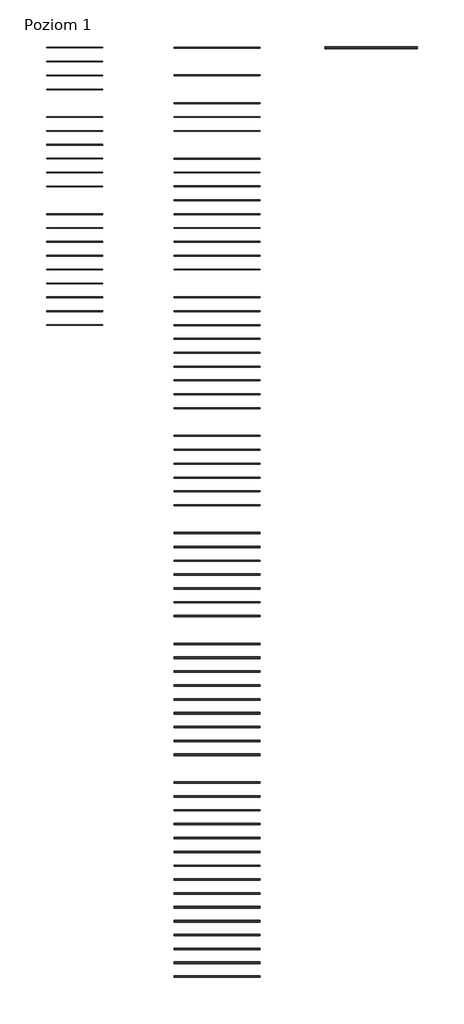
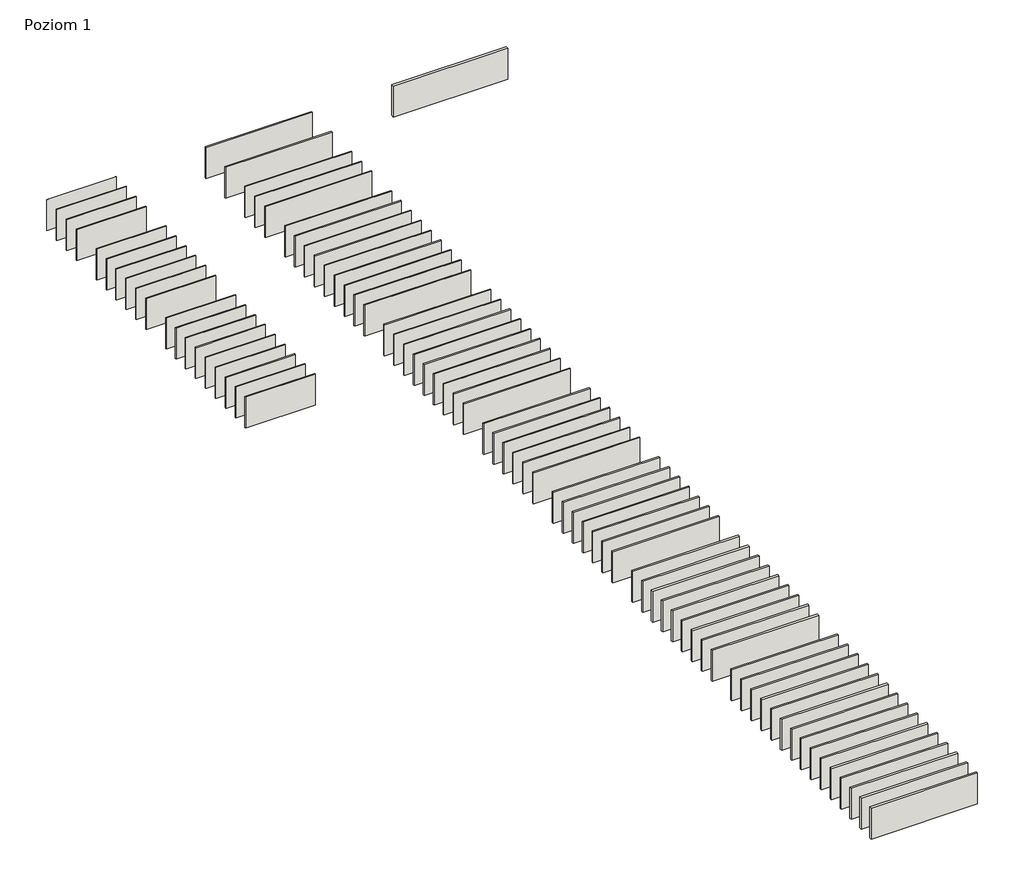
# One storey: 80 walls.
"""IFC4 building model written with IfcOpenShell, lengths in millimetres."""

from ifc_helpers import new_model, si_unit, origin, origin_with_axes, place, context, project, spatial, polyline, outline, extrude, element, save

model = new_model("IFC4")

# Units and contexts
model_context = context("Model", 3, world=origin())
ifc_project = project(units=[si_unit("LENGTHUNIT", "METRE", prefix="MILLI")], contexts=[model_context])

# Site, building, storey
site = spatial("IfcSite", under=ifc_project)
building = spatial("IfcBuilding", under=site)
storey = spatial("IfcBuildingStorey", under=building, Name="Poziom 1", Elevation=0.0)

# Walls
placement = place(None, origin())
element("IfcWall", 1, ObjectType="3.41.01-63-EI30/REI30", at=placement, inside=storey, context=model_context, shape_type="SweptSolid", body=[
    extrude(outline(polyline([(-838.6928531, -63644.5048206), (-13838.6928531, -63644.5048206), (-13838.6928531, -63489.5048206), (-838.6928531, -63489.5048206), (-838.6928531, -63644.5048206)])), origin_with_axes(), (0.0, 0.0, 1.0), 4000.0),
])
element("IfcWall", 2, ObjectType="3.41.01-63-EI60/REI60", at=placement, inside=storey, context=model_context, shape_type="SweptSolid", body=[
    extrude(outline(polyline([(-838.6928531, -65744.5048206), (-13838.6928531, -65744.5048206), (-13838.6928531, -65589.5048206), (-838.6928531, -65589.5048206), (-838.6928531, -65744.5048206)])), origin_with_axes(), (0.0, 0.0, 1.0), 4000.0),
])
element("IfcWall", 3, ObjectType="3.41.01-63-EI120/REI120", at=placement, inside=storey, context=model_context, shape_type="SweptSolid", body=[
    extrude(outline(polyline([(-838.6928531, -67844.5048206), (-13838.6928531, -67844.5048206), (-13838.6928531, -67689.5048206), (-838.6928531, -67689.5048206), (-838.6928531, -67844.5048206)])), origin_with_axes(), (0.0, 0.0, 1.0), 4000.0),
])
element("IfcWall", 4, ObjectType="3.41.02-63-EI30/REI30", at=placement, inside=storey, context=model_context, shape_type="SweptSolid", body=[
    extrude(outline(polyline([(-838.6928531, -72069.5048206), (-13838.6928531, -72069.5048206), (-13838.6928531, -71864.5048206), (-838.6928531, -71864.5048206), (-838.6928531, -72069.5048206)])), origin_with_axes(), (0.0, 0.0, 1.0), 4000.0),
])
element("IfcWall", 5, ObjectType="3.41.02-63-EI60/REI60", at=placement, inside=storey, context=model_context, shape_type="SweptSolid", body=[
    extrude(outline(polyline([(-838.6928531, -74169.5048206), (-13838.6928531, -74169.5048206), (-13838.6928531, -73964.5048206), (-838.6928531, -73964.5048206), (-838.6928531, -74169.5048206)])), origin_with_axes(), (0.0, 0.0, 1.0), 4000.0),
])
element("IfcWall", 6, ObjectType="3.41.02-63-EI120/REI120", at=placement, inside=storey, context=model_context, shape_type="SweptSolid", body=[
    extrude(outline(polyline([(-838.6928531, -76269.5048206), (-13838.6928531, -76269.5048206), (-13838.6928531, -76064.5048206), (-838.6928531, -76064.5048206), (-838.6928531, -76269.5048206)])), origin_with_axes(), (0.0, 0.0, 1.0), 4000.0),
])
element("IfcWall", 7, ObjectType="3.41.02-64-EI30/REI30", at=placement, inside=storey, context=model_context, shape_type="SweptSolid", body=[
    extrude(outline(polyline([(-838.6928531, -78369.5048206), (-13838.6928531, -78369.5048206), (-13838.6928531, -78164.5048206), (-838.6928531, -78164.5048206), (-838.6928531, -78369.5048206)])), origin_with_axes(), (0.0, 0.0, 1.0), 4000.0),
])
element("IfcWall", 8, ObjectType="3.41.02-64-EI60/REI60", at=placement, inside=storey, context=model_context, shape_type="SweptSolid", body=[
    extrude(outline(polyline([(-838.6928531, -80469.5048206), (-13838.6928531, -80469.5048206), (-13838.6928531, -80264.5048206), (-838.6928531, -80264.5048206), (-838.6928531, -80469.5048206)])), origin_with_axes(), (0.0, 0.0, 1.0), 4000.0),
])
element("IfcWall", 9, ObjectType="3.41.02-64-EI120/REI120", at=placement, inside=storey, context=model_context, shape_type="SweptSolid", body=[
    extrude(outline(polyline([(-838.6928531, -82569.5048206), (-13838.6928531, -82569.5048206), (-13838.6928531, -82364.5048206), (-838.6928531, -82364.5048206), (-838.6928531, -82569.5048206)])), origin_with_axes(), (0.0, 0.0, 1.0), 4000.0),
])
element("IfcWall", 10, ObjectType="3.41.03-64-EI30/REI30", at=placement, inside=storey, context=model_context, shape_type="SweptSolid", body=[
    extrude(outline(polyline([(-838.6928531, -95194.5048206), (-13838.6928531, -95194.5048206), (-13838.6928531, -94939.5048206), (-838.6928531, -94939.5048206), (-838.6928531, -95194.5048206)])), origin_with_axes(), (0.0, 0.0, 1.0), 4000.0),
])
element("IfcWall", 11, ObjectType="3.41.03-64-EI60/REI60", at=placement, inside=storey, context=model_context, shape_type="SweptSolid", body=[
    extrude(outline(polyline([(-838.6928531, -97294.5048206), (-13838.6928531, -97294.5048206), (-13838.6928531, -97039.5048206), (-838.6928531, -97039.5048206), (-838.6928531, -97294.5048206)])), origin_with_axes(), (0.0, 0.0, 1.0), 4000.0),
])
element("IfcWall", 12, ObjectType="3.41.03-64-EI120/REI120", at=placement, inside=storey, context=model_context, shape_type="SweptSolid", body=[
    extrude(outline(polyline([(-838.6928531, -99394.5048206), (-13838.6928531, -99394.5048206), (-13838.6928531, -99139.5048206), (-838.6928531, -99139.5048206), (-838.6928531, -99394.5048206)])), origin_with_axes(), (0.0, 0.0, 1.0), 4000.0),
])
element("IfcWall", 13, ObjectType="3.41.03-65-EI30/REI30", at=placement, inside=storey, context=model_context, shape_type="SweptSolid", body=[
    extrude(outline(polyline([(-838.6928531, -101494.5048206), (-13838.6928531, -101494.5048206), (-13838.6928531, -101239.5048206), (-838.6928531, -101239.5048206), (-838.6928531, -101494.5048206)])), origin_with_axes(), (0.0, 0.0, 1.0), 4000.0),
])
element("IfcWall", 14, ObjectType="3.41.03-65-EI60/REI60", at=placement, inside=storey, context=model_context, shape_type="SweptSolid", body=[
    extrude(outline(polyline([(-838.6928531, -103594.5048206), (-13838.6928531, -103594.5048206), (-13838.6928531, -103339.5048206), (-838.6928531, -103339.5048206), (-838.6928531, -103594.5048206)])), origin_with_axes(), (0.0, 0.0, 1.0), 4000.0),
])
element("IfcWall", 15, ObjectType="3.41.03-65-EI120/REI120", at=placement, inside=storey, context=model_context, shape_type="SweptSolid", body=[
    extrude(outline(polyline([(-838.6928531, -105694.5048206), (-13838.6928531, -105694.5048206), (-13838.6928531, -105439.5048206), (-838.6928531, -105439.5048206), (-838.6928531, -105694.5048206)])), origin_with_axes(), (0.0, 0.0, 1.0), 4000.0),
])
element("IfcWall", 16, ObjectType="3.41.052-64-EI30/REI30", at=placement, inside=storey, context=model_context, shape_type="SweptSolid", body=[
    extrude(outline(polyline([(-838.6928531, -122469.5048206), (-13838.6928531, -122469.5048206), (-13838.6928531, -122264.5048206), (-838.6928531, -122264.5048206), (-838.6928531, -122469.5048206)])), origin_with_axes(), (0.0, 0.0, 1.0), 4000.0),
])
element("IfcWall", 17, ObjectType="3.41.052-64-EI60/REI60", at=placement, inside=storey, context=model_context, shape_type="SweptSolid", body=[
    extrude(outline(polyline([(-838.6928531, -124569.5048206), (-13838.6928531, -124569.5048206), (-13838.6928531, -124364.5048206), (-838.6928531, -124364.5048206), (-838.6928531, -124569.5048206)])), origin_with_axes(), (0.0, 0.0, 1.0), 4000.0),
])
element("IfcWall", 18, ObjectType="3.41.052-64-EI120/REI120", at=placement, inside=storey, context=model_context, shape_type="SweptSolid", body=[
    extrude(outline(polyline([(-838.6928531, -126669.5048206), (-13838.6928531, -126669.5048206), (-13838.6928531, -126464.5048206), (-838.6928531, -126464.5048206), (-838.6928531, -126669.5048206)])), origin_with_axes(), (0.0, 0.0, 1.0), 4000.0),
])
element("IfcWall", 19, ObjectType="3.41.053-67-EI30/REI30", at=placement, inside=storey, context=model_context, shape_type="SweptSolid", body=[
    extrude(outline(polyline([(-838.6928531, -128794.5048206), (-13838.6928531, -128794.5048206), (-13838.6928531, -128539.5048206), (-838.6928531, -128539.5048206), (-838.6928531, -128794.5048206)])), origin_with_axes(), (0.0, 0.0, 1.0), 4000.0),
])
element("IfcWall", 20, ObjectType="3.41.053-67-EI60/REI60", at=placement, inside=storey, context=model_context, shape_type="SweptSolid", body=[
    extrude(outline(polyline([(-838.6928531, -130894.5048206), (-13838.6928531, -130894.5048206), (-13838.6928531, -130639.5048206), (-838.6928531, -130639.5048206), (-838.6928531, -130894.5048206)])), origin_with_axes(), (0.0, 0.0, 1.0), 4000.0),
])
element("IfcWall", 21, ObjectType="3.41.053-67-EI120/REI120", at=placement, inside=storey, context=model_context, shape_type="SweptSolid", body=[
    extrude(outline(polyline([(-838.6928531, -132994.5048206), (-13838.6928531, -132994.5048206), (-13838.6928531, -132739.5048206), (-838.6928531, -132739.5048206), (-838.6928531, -132994.5048206)])), origin_with_axes(), (0.0, 0.0, 1.0), 4000.0),
])
element("IfcWall", 22, ObjectType="3.40.04-55-EI30/REI30", at=placement, inside=storey, context=model_context, shape_type="SweptSolid", body=[
    extrude(outline(polyline([(-838.6928531, -6917.0048206), (-13838.6928531, -6917.0048206), (-13838.6928531, -6817.0048206), (-838.6928531, -6817.0048206), (-838.6928531, -6917.0048206)])), origin_with_axes(), (0.0, 0.0, 1.0), 4000.0),
])
element("IfcWall", 23, ObjectType="3.40.04-55-EI60/REI60", at=placement, inside=storey, context=model_context, shape_type="SweptSolid", body=[
    extrude(outline(polyline([(-838.6928531, -9017.0048206), (-13838.6928531, -9017.0048206), (-13838.6928531, -8917.0048206), (-838.6928531, -8917.0048206), (-838.6928531, -9017.0048206)])), origin_with_axes(), (0.0, 0.0, 1.0), 4000.0),
])
element("IfcWall", 24, ObjectType="3.40.04-55-EI120/REI120", at=placement, inside=storey, context=model_context, shape_type="SweptSolid", body=[
    extrude(outline(polyline([(-838.6928531, -11117.0048206), (-13838.6928531, -11117.0048206), (-13838.6928531, -11017.0048206), (-838.6928531, -11017.0048206), (-838.6928531, -11117.0048206)])), origin_with_axes(), (0.0, 0.0, 1.0), 4000.0),
])
element("IfcWall", 25, ObjectType="3.40.05 AKU-61-EI30/REI30", at=placement, inside=storey, context=model_context, shape_type="SweptSolid", body=[
    extrude(outline(polyline([(-838.6928531, -15329.5048206), (-13838.6928531, -15329.5048206), (-13838.6928531, -15204.5048206), (-838.6928531, -15204.5048206), (-838.6928531, -15329.5048206)])), origin_with_axes(), (0.0, 0.0, 1.0), 4000.0),
])
element("IfcWall", 26, ObjectType="3.40.05 AKU-61-EI60/REI60", at=placement, inside=storey, context=model_context, shape_type="SweptSolid", body=[
    extrude(outline(polyline([(-838.6928531, -17429.5048206), (-13838.6928531, -17429.5048206), (-13838.6928531, -17304.5048206), (-838.6928531, -17304.5048206), (-838.6928531, -17429.5048206)])), origin_with_axes(), (0.0, 0.0, 1.0), 4000.0),
])
element("IfcWall", 27, ObjectType="3.40.05 AKU-61-EI120/REI120", at=placement, inside=storey, context=model_context, shape_type="SweptSolid", body=[
    extrude(outline(polyline([(-838.6928531, -19529.5048206), (-13838.6928531, -19529.5048206), (-13838.6928531, -19404.5048206), (-838.6928531, -19404.5048206), (-838.6928531, -19529.5048206)])), origin_with_axes(), (0.0, 0.0, 1.0), 4000.0),
])
element("IfcWall", 28, ObjectType="3.40.05-54-EI30/REI30", at=placement, inside=storey, context=model_context, shape_type="SweptSolid", body=[
    extrude(outline(polyline([(-838.6928531, -21629.5048206), (-13838.6928531, -21629.5048206), (-13838.6928531, -21504.5048206), (-838.6928531, -21504.5048206), (-838.6928531, -21629.5048206)])), origin_with_axes(), (0.0, 0.0, 1.0), 4000.0),
])
element("IfcWall", 29, ObjectType="3.40.05-54-EI60/REI60", at=placement, inside=storey, context=model_context, shape_type="SweptSolid", body=[
    extrude(outline(polyline([(-838.6928531, -23729.5048206), (-13838.6928531, -23729.5048206), (-13838.6928531, -23604.5048206), (-838.6928531, -23604.5048206), (-838.6928531, -23729.5048206)])), origin_with_axes(), (0.0, 0.0, 1.0), 4000.0),
])
element("IfcWall", 30, ObjectType="3.40.05-54-EI120/REI120", at=placement, inside=storey, context=model_context, shape_type="SweptSolid", body=[
    extrude(outline(polyline([(-838.6928531, -25829.5048206), (-13838.6928531, -25829.5048206), (-13838.6928531, -25704.5048206), (-838.6928531, -25704.5048206), (-838.6928531, -25829.5048206)])), origin_with_axes(), (0.0, 0.0, 1.0), 4000.0),
])
element("IfcWall", 31, ObjectType="3.40.05-58-EI30/REI30", at=placement, inside=storey, context=model_context, shape_type="SweptSolid", body=[
    extrude(outline(polyline([(-838.6928531, -27929.5048206), (-13838.6928531, -27929.5048206), (-13838.6928531, -27804.5048206), (-838.6928531, -27804.5048206), (-838.6928531, -27929.5048206)])), origin_with_axes(), (0.0, 0.0, 1.0), 4000.0),
])
element("IfcWall", 32, ObjectType="3.40.05-58-EI60/REI60", at=placement, inside=storey, context=model_context, shape_type="SweptSolid", body=[
    extrude(outline(polyline([(-838.6928531, -30029.5048206), (-13838.6928531, -30029.5048206), (-13838.6928531, -29904.5048206), (-838.6928531, -29904.5048206), (-838.6928531, -30029.5048206)])), origin_with_axes(), (0.0, 0.0, 1.0), 4000.0),
])
element("IfcWall", 33, ObjectType="3.40.05-58-EI120/REI120", at=placement, inside=storey, context=model_context, shape_type="SweptSolid", body=[
    extrude(outline(polyline([(-838.6928531, -32129.5048206), (-13838.6928531, -32129.5048206), (-13838.6928531, -32004.5048206), (-838.6928531, -32004.5048206), (-838.6928531, -32129.5048206)])), origin_with_axes(), (0.0, 0.0, 1.0), 4000.0),
])
element("IfcWall", 34, ObjectType="3.40.06 AKU-64-EI30/REI30", at=placement, inside=storey, context=model_context, shape_type="SweptSolid", body=[
    extrude(outline(polyline([(-838.6928531, -36342.0048206), (-13838.6928531, -36342.0048206), (-13838.6928531, -36192.0048206), (-838.6928531, -36192.0048206), (-838.6928531, -36342.0048206)])), origin_with_axes(), (0.0, 0.0, 1.0), 4000.0),
])
element("IfcWall", 35, ObjectType="3.40.06 AKU-64-EI60/REI60", at=placement, inside=storey, context=model_context, shape_type="SweptSolid", body=[
    extrude(outline(polyline([(-838.6928531, -38442.0048206), (-13838.6928531, -38442.0048206), (-13838.6928531, -38292.0048206), (-838.6928531, -38292.0048206), (-838.6928531, -38442.0048206)])), origin_with_axes(), (0.0, 0.0, 1.0), 4000.0),
])
element("IfcWall", 36, ObjectType="3.40.06 AKU-64-EI120/REI120", at=placement, inside=storey, context=model_context, shape_type="SweptSolid", body=[
    extrude(outline(polyline([(-838.6928531, -40542.0048206), (-13838.6928531, -40542.0048206), (-13838.6928531, -40392.0048206), (-838.6928531, -40392.0048206), (-838.6928531, -40542.0048206)])), origin_with_axes(), (0.0, 0.0, 1.0), 4000.0),
])
element("IfcWall", 37, ObjectType="3.40.06-54-EI30/REI30", at=placement, inside=storey, context=model_context, shape_type="SweptSolid", body=[
    extrude(outline(polyline([(-838.6928531, -42642.0048206), (-13838.6928531, -42642.0048206), (-13838.6928531, -42492.0048206), (-838.6928531, -42492.0048206), (-838.6928531, -42642.0048206)])), origin_with_axes(), (0.0, 0.0, 1.0), 4000.0),
])
element("IfcWall", 38, ObjectType="3.40.06-54-EI60/REI60", at=placement, inside=storey, context=model_context, shape_type="SweptSolid", body=[
    extrude(outline(polyline([(-838.6928531, -44742.0048206), (-13838.6928531, -44742.0048206), (-13838.6928531, -44592.0048206), (-838.6928531, -44592.0048206), (-838.6928531, -44742.0048206)])), origin_with_axes(), (0.0, 0.0, 1.0), 4000.0),
])
element("IfcWall", 39, ObjectType="3.40.06-54-EI120/REI120", at=placement, inside=storey, context=model_context, shape_type="SweptSolid", body=[
    extrude(outline(polyline([(-838.6928531, -46842.0048206), (-13838.6928531, -46842.0048206), (-13838.6928531, -46692.0048206), (-838.6928531, -46692.0048206), (-838.6928531, -46842.0048206)])), origin_with_axes(), (0.0, 0.0, 1.0), 4000.0),
])
element("IfcWall", 40, ObjectType="3.40.06-57-EI30/REI30", at=placement, inside=storey, context=model_context, shape_type="SweptSolid", body=[
    extrude(outline(polyline([(-838.6928531, -48942.0048206), (-13838.6928531, -48942.0048206), (-13838.6928531, -48792.0048206), (-838.6928531, -48792.0048206), (-838.6928531, -48942.0048206)])), origin_with_axes(), (0.0, 0.0, 1.0), 4000.0),
])
element("IfcWall", 41, ObjectType="3.40.06-57-EI60/REI60", at=placement, inside=storey, context=model_context, shape_type="SweptSolid", body=[
    extrude(outline(polyline([(-838.6928531, -51042.0048206), (-13838.6928531, -51042.0048206), (-13838.6928531, -50892.0048206), (-838.6928531, -50892.0048206), (-838.6928531, -51042.0048206)])), origin_with_axes(), (0.0, 0.0, 1.0), 4000.0),
])
element("IfcWall", 42, ObjectType="3.40.06-57-EI120/REI120", at=placement, inside=storey, context=model_context, shape_type="SweptSolid", body=[
    extrude(outline(polyline([(-838.6928531, -53142.0048206), (-13838.6928531, -53142.0048206), (-13838.6928531, -52992.0048206), (-838.6928531, -52992.0048206), (-838.6928531, -53142.0048206)])), origin_with_axes(), (0.0, 0.0, 1.0), 4000.0),
])
element("IfcWall", 43, ObjectType="3.41.01-57-EI30/REI30", at=placement, inside=storey, context=model_context, shape_type="SweptSolid", body=[
    extrude(outline(polyline([(-838.6928531, -57344.5048206), (-13838.6928531, -57344.5048206), (-13838.6928531, -57189.5048206), (-838.6928531, -57189.5048206), (-838.6928531, -57344.5048206)])), origin_with_axes(), (0.0, 0.0, 1.0), 4000.0),
])
element("IfcWall", 44, ObjectType="3.41.01-57-EI60/REI60", at=placement, inside=storey, context=model_context, shape_type="SweptSolid", body=[
    extrude(outline(polyline([(-838.6928531, -59444.5048206), (-13838.6928531, -59444.5048206), (-13838.6928531, -59289.5048206), (-838.6928531, -59289.5048206), (-838.6928531, -59444.5048206)])), origin_with_axes(), (0.0, 0.0, 1.0), 4000.0),
])
element("IfcWall", 45, ObjectType="3.41.01-57-EI120/REI120", at=placement, inside=storey, context=model_context, shape_type="SweptSolid", body=[
    extrude(outline(polyline([(-838.6928531, -61544.5048206), (-13838.6928531, -61544.5048206), (-13838.6928531, -61389.5048206), (-838.6928531, -61389.5048206), (-838.6928531, -61544.5048206)])), origin_with_axes(), (0.0, 0.0, 1.0), 4000.0),
])
element("IfcWall", 46, ObjectType="3.41.03-63-EI30/REI30", at=placement, inside=storey, context=model_context, shape_type="SweptSolid", body=[
    extrude(outline(polyline([(-838.6928531, -88894.5048206), (-13838.6928531, -88894.5048206), (-13838.6928531, -88639.5048206), (-838.6928531, -88639.5048206), (-838.6928531, -88894.5048206)])), origin_with_axes(), (0.0, 0.0, 1.0), 4000.0),
])
element("IfcWall", 47, ObjectType="3.41.03-63-EI60/REI60", at=placement, inside=storey, context=model_context, shape_type="SweptSolid", body=[
    extrude(outline(polyline([(-838.6928531, -90994.5048206), (-13838.6928531, -90994.5048206), (-13838.6928531, -90739.5048206), (-838.6928531, -90739.5048206), (-838.6928531, -90994.5048206)])), origin_with_axes(), (0.0, 0.0, 1.0), 4000.0),
])
element("IfcWall", 48, ObjectType="3.41.03-63-EI120/REI120", at=placement, inside=storey, context=model_context, shape_type="SweptSolid", body=[
    extrude(outline(polyline([(-838.6928531, -93094.5048206), (-13838.6928531, -93094.5048206), (-13838.6928531, -92839.5048206), (-838.6928531, -92839.5048206), (-838.6928531, -93094.5048206)])), origin_with_axes(), (0.0, 0.0, 1.0), 4000.0),
])
element("IfcWall", 49, ObjectType="3.41.041-54-EI30/REI30", at=placement, inside=storey, context=model_context, shape_type="SweptSolid", body=[
    extrude(outline(polyline([(-838.6928531, -109869.5048206), (-13838.6928531, -109869.5048206), (-13838.6928531, -109664.5048206), (-838.6928531, -109664.5048206), (-838.6928531, -109869.5048206)])), origin_with_axes(), (0.0, 0.0, 1.0), 4000.0),
])
element("IfcWall", 50, ObjectType="3.41.041-54-EI60/REI60", at=placement, inside=storey, context=model_context, shape_type="SweptSolid", body=[
    extrude(outline(polyline([(-838.6928531, -111969.5048206), (-13838.6928531, -111969.5048206), (-13838.6928531, -111764.5048206), (-838.6928531, -111764.5048206), (-838.6928531, -111969.5048206)])), origin_with_axes(), (0.0, 0.0, 1.0), 4000.0),
])
element("IfcWall", 51, ObjectType="3.41.041-54-EI120/REI120", at=placement, inside=storey, context=model_context, shape_type="SweptSolid", body=[
    extrude(outline(polyline([(-838.6928531, -114069.5048206), (-13838.6928531, -114069.5048206), (-13838.6928531, -113864.5048206), (-838.6928531, -113864.5048206), (-838.6928531, -114069.5048206)])), origin_with_axes(), (0.0, 0.0, 1.0), 4000.0),
])
element("IfcWall", 52, ObjectType="3.41.042-57-EI30/REI30", at=placement, inside=storey, context=model_context, shape_type="SweptSolid", body=[
    extrude(outline(polyline([(-838.6928531, -116194.5048206), (-13838.6928531, -116194.5048206), (-13838.6928531, -115939.5048206), (-838.6928531, -115939.5048206), (-838.6928531, -116194.5048206)])), origin_with_axes(), (0.0, 0.0, 1.0), 4000.0),
])
element("IfcWall", 53, ObjectType="3.41.042-57-EI60/REI60", at=placement, inside=storey, context=model_context, shape_type="SweptSolid", body=[
    extrude(outline(polyline([(-838.6928531, -118294.5048206), (-13838.6928531, -118294.5048206), (-13838.6928531, -118039.5048206), (-838.6928531, -118039.5048206), (-838.6928531, -118294.5048206)])), origin_with_axes(), (0.0, 0.0, 1.0), 4000.0),
])
element("IfcWall", 54, ObjectType="3.41.042-57-EI120/REI120", at=placement, inside=storey, context=model_context, shape_type="SweptSolid", body=[
    extrude(outline(polyline([(-838.6928531, -120394.5048206), (-13838.6928531, -120394.5048206), (-13838.6928531, -120139.5048206), (-838.6928531, -120139.5048206), (-838.6928531, -120394.5048206)])), origin_with_axes(), (0.0, 0.0, 1.0), 4000.0),
])
element("IfcWall", 55, ObjectType="3.40.01.1-44-EI15/REI15", at=placement, inside=storey, context=model_context, shape_type="SweptSolid", body=[
    extrude(outline(polyline([(-24719.0657948, 1495.4951794), (-33219.0657948, 1495.4951794), (-33219.0657948, 1570.4951794), (-24719.0657948, 1570.4951794), (-24719.0657948, 1495.4951794)])), origin_with_axes(), (0.0, 0.0, 1.0), 4000.0),
])
element("IfcWall", 56, ObjectType="3.40.01.1-44-EI30/REI30", at=placement, inside=storey, context=model_context, shape_type="SweptSolid", body=[
    extrude(outline(polyline([(-24719.0657948, -604.5048206), (-33219.0657948, -604.5048206), (-33219.0657948, -529.5048206), (-24719.0657948, -529.5048206), (-24719.0657948, -604.5048206)])), origin_with_axes(), (0.0, 0.0, 1.0), 4000.0),
])
element("IfcWall", 57, ObjectType="3.40.01.1-44-EI60/REI60", at=placement, inside=storey, context=model_context, shape_type="SweptSolid", body=[
    extrude(outline(polyline([(-24719.0657948, -2704.5048206), (-33219.0657948, -2704.5048206), (-33219.0657948, -2629.5048206), (-24719.0657948, -2629.5048206), (-24719.0657948, -2704.5048206)])), origin_with_axes(), (0.0, 0.0, 1.0), 4000.0),
])
element("IfcWall", 58, ObjectType="3.40.01.2-47-EI60/REI60", at=placement, inside=storey, context=model_context, shape_type="SweptSolid", body=[
    extrude(outline(polyline([(-24719.0657948, -4807.0048206), (-33219.0657948, -4807.0048206), (-33219.0657948, -4727.0048206), (-24719.0657948, -4727.0048206), (-24719.0657948, -4807.0048206)])), origin_with_axes(), (0.0, 0.0, 1.0), 4000.0),
])
element("IfcWall", 59, ObjectType="3.40.02-46-EI15/REI15", at=placement, inside=storey, context=model_context, shape_type="SweptSolid", body=[
    extrude(outline(polyline([(-24719.0657948, -9017.0048206), (-33219.0657948, -9017.0048206), (-33219.0657948, -8917.0048206), (-24719.0657948, -8917.0048206), (-24719.0657948, -9017.0048206)])), origin_with_axes(), (0.0, 0.0, 1.0), 4000.0),
])
element("IfcWall", 60, ObjectType="3.40.02-46-EI30/REI30", at=placement, inside=storey, context=model_context, shape_type="SweptSolid", body=[
    extrude(outline(polyline([(-24719.0657948, -11117.0048206), (-33219.0657948, -11117.0048206), (-33219.0657948, -11017.0048206), (-24719.0657948, -11017.0048206), (-24719.0657948, -11117.0048206)])), origin_with_axes(), (0.0, 0.0, 1.0), 4000.0),
])
element("IfcWall", 61, ObjectType="3.40.02-46-EI60/REI60", at=placement, inside=storey, context=model_context, shape_type="SweptSolid", body=[
    extrude(outline(polyline([(-24719.0657948, -13217.0048206), (-33219.0657948, -13217.0048206), (-33219.0657948, -13117.0048206), (-24719.0657948, -13117.0048206), (-24719.0657948, -13217.0048206)])), origin_with_axes(), (0.0, 0.0, 1.0), 4000.0),
])
element("IfcWall", 62, ObjectType="3.40.02-48-EI15/REI15", at=placement, inside=storey, context=model_context, shape_type="SweptSolid", body=[
    extrude(outline(polyline([(-24719.0657948, -15317.0048206), (-33219.0657948, -15317.0048206), (-33219.0657948, -15217.0048206), (-24719.0657948, -15217.0048206), (-24719.0657948, -15317.0048206)])), origin_with_axes(), (0.0, 0.0, 1.0), 4000.0),
])
element("IfcWall", 63, ObjectType="3.40.02-48-EI30/REI30", at=placement, inside=storey, context=model_context, shape_type="SweptSolid", body=[
    extrude(outline(polyline([(-24719.0657948, -17417.0048206), (-33219.0657948, -17417.0048206), (-33219.0657948, -17317.0048206), (-24719.0657948, -17317.0048206), (-24719.0657948, -17417.0048206)])), origin_with_axes(), (0.0, 0.0, 1.0), 4000.0),
])
element("IfcWall", 64, ObjectType="3.40.02-48-EI60/REI60", at=placement, inside=storey, context=model_context, shape_type="SweptSolid", body=[
    extrude(outline(polyline([(-24719.0657948, -19517.0048206), (-33219.0657948, -19517.0048206), (-33219.0657948, -19417.0048206), (-24719.0657948, -19417.0048206), (-24719.0657948, -19517.0048206)])), origin_with_axes(), (0.0, 0.0, 1.0), 4000.0),
])
element("IfcWall", 65, ObjectType="3.40.03 AKU-56-EI15/REI15", at=placement, inside=storey, context=model_context, shape_type="SweptSolid", body=[
    extrude(outline(polyline([(-24719.0657948, -23729.5048206), (-33219.0657948, -23729.5048206), (-33219.0657948, -23604.5048206), (-24719.0657948, -23604.5048206), (-24719.0657948, -23729.5048206)])), origin_with_axes(), (0.0, 0.0, 1.0), 4000.0),
])
element("IfcWall", 66, ObjectType="3.40.03 AKU-56-EI30/REI30", at=placement, inside=storey, context=model_context, shape_type="SweptSolid", body=[
    extrude(outline(polyline([(-24719.0657948, -25829.5048206), (-33219.0657948, -25829.5048206), (-33219.0657948, -25704.5048206), (-24719.0657948, -25704.5048206), (-24719.0657948, -25829.5048206)])), origin_with_axes(), (0.0, 0.0, 1.0), 4000.0),
])
element("IfcWall", 67, ObjectType="3.40.03 AKU-56-EI60/REI60", at=placement, inside=storey, context=model_context, shape_type="SweptSolid", body=[
    extrude(outline(polyline([(-24719.0657948, -27929.5048206), (-33219.0657948, -27929.5048206), (-33219.0657948, -27804.5048206), (-24719.0657948, -27804.5048206), (-24719.0657948, -27929.5048206)])), origin_with_axes(), (0.0, 0.0, 1.0), 4000.0),
])
element("IfcWall", 68, ObjectType="3.40.03-46-EI15/REI15", at=placement, inside=storey, context=model_context, shape_type="SweptSolid", body=[
    extrude(outline(polyline([(-24719.0657948, -30029.5048206), (-33219.0657948, -30029.5048206), (-33219.0657948, -29904.5048206), (-24719.0657948, -29904.5048206), (-24719.0657948, -30029.5048206)])), origin_with_axes(), (0.0, 0.0, 1.0), 4000.0),
])
element("IfcWall", 69, ObjectType="3.40.03-46-EI30/REI30", at=placement, inside=storey, context=model_context, shape_type="SweptSolid", body=[
    extrude(outline(polyline([(-24719.0657948, -32129.5048206), (-33219.0657948, -32129.5048206), (-33219.0657948, -32004.5048206), (-24719.0657948, -32004.5048206), (-24719.0657948, -32129.5048206)])), origin_with_axes(), (0.0, 0.0, 1.0), 4000.0),
])
element("IfcWall", 70, ObjectType="3.40.03-46-EI60/REI60", at=placement, inside=storey, context=model_context, shape_type="SweptSolid", body=[
    extrude(outline(polyline([(-24719.0657948, -34229.5048206), (-33219.0657948, -34229.5048206), (-33219.0657948, -34104.5048206), (-24719.0657948, -34104.5048206), (-24719.0657948, -34229.5048206)])), origin_with_axes(), (0.0, 0.0, 1.0), 4000.0),
])
element("IfcWall", 71, ObjectType="3.40.03-51-EI15/REI15", at=placement, inside=storey, context=model_context, shape_type="SweptSolid", body=[
    extrude(outline(polyline([(-24719.0657948, -36329.5048206), (-33219.0657948, -36329.5048206), (-33219.0657948, -36204.5048206), (-24719.0657948, -36204.5048206), (-24719.0657948, -36329.5048206)])), origin_with_axes(), (0.0, 0.0, 1.0), 4000.0),
])
element("IfcWall", 72, ObjectType="3.40.03-51-EI30/REI30", at=placement, inside=storey, context=model_context, shape_type="SweptSolid", body=[
    extrude(outline(polyline([(-24719.0657948, -38429.5048206), (-33219.0657948, -38429.5048206), (-33219.0657948, -38304.5048206), (-24719.0657948, -38304.5048206), (-24719.0657948, -38429.5048206)])), origin_with_axes(), (0.0, 0.0, 1.0), 4000.0),
])
element("IfcWall", 73, ObjectType="3.40.03-51-EI60/REI60", at=placement, inside=storey, context=model_context, shape_type="SweptSolid", body=[
    extrude(outline(polyline([(-24719.0657948, -40529.5048206), (-33219.0657948, -40529.5048206), (-33219.0657948, -40404.5048206), (-24719.0657948, -40404.5048206), (-24719.0657948, -40529.5048206)])), origin_with_axes(), (0.0, 0.0, 1.0), 4000.0),
])
element("IfcWall", 74, ObjectType="3.38.013-59-EI60/REI60", at=placement, inside=storey, context=model_context, shape_type="SweptSolid", body=[
    extrude(outline(polyline([(-838.6928531, -2739.5048206), (-13838.6928531, -2739.5048206), (-13838.6928531, -2594.5048206), (-838.6928531, -2594.5048206), (-838.6928531, -2739.5048206)])), origin_with_axes(), (0.0, 0.0, 1.0), 4000.0),
])
element("IfcWall", 75, ObjectType="3.40.15 AKU-68-na zapytanie", at=placement, inside=storey, context=model_context, shape_type="SweptSolid", body=[
    extrude(outline(polyline([(23000.8717557, 1352.4951794), (9000.8717557, 1352.4951794), (9000.8717557, 1713.4951794), (23000.8717557, 1713.4951794), (23000.8717557, 1352.4951794)])), origin_with_axes(), (0.0, 0.0, 1.0), 4000.0),
])
element("IfcWall", 76, ObjectType="3.41.021 AKU-67-na zapytanie", at=placement, inside=storey, context=model_context, shape_type="SweptSolid", body=[
    extrude(outline(polyline([(-838.6928531, -84674.5048206), (-13838.6928531, -84674.5048206), (-13838.6928531, -84459.5048206), (-838.6928531, -84459.5048206), (-838.6928531, -84674.5048206)])), origin_with_axes(), (0.0, 0.0, 1.0), 4000.0),
])
element("IfcWall", 77, ObjectType="3.41.053 AKU-75-EI30/REI30", at=placement, inside=storey, context=model_context, shape_type="SweptSolid", body=[
    extrude(outline(polyline([(-838.6928531, -135092.0048206), (-13838.6928531, -135092.0048206), (-13838.6928531, -134837.0048206), (-838.6928531, -134837.0048206), (-838.6928531, -135092.0048206)])), origin_with_axes(), (0.0, 0.0, 1.0), 4000.0),
])
element("IfcWall", 78, ObjectType="3.41.053 AKU-75-EI60/REI60", at=placement, inside=storey, context=model_context, shape_type="SweptSolid", body=[
    extrude(outline(polyline([(-838.6928531, -137192.0048206), (-13838.6928531, -137192.0048206), (-13838.6928531, -136937.0048206), (-838.6928531, -136937.0048206), (-838.6928531, -137192.0048206)])), origin_with_axes(), (0.0, 0.0, 1.0), 4000.0),
])
element("IfcWall", 79, ObjectType="3.41.053 AKU-75-EI120/REI120", at=placement, inside=storey, context=model_context, shape_type="SweptSolid", body=[
    extrude(outline(polyline([(-838.6928531, -139292.0048206), (-13838.6928531, -139292.0048206), (-13838.6928531, -139037.0048206), (-838.6928531, -139037.0048206), (-838.6928531, -139292.0048206)])), origin_with_axes(), (0.0, 0.0, 1.0), 4000.0),
])
element("IfcWall", 80, ObjectType="3.37.023 AKU-58-na zapytanie", at=placement, inside=storey, context=model_context, shape_type="SweptSolid", body=[
    extrude(outline(polyline([(-838.6928531, 1464.2451794), (-13838.6928531, 1464.2451794), (-13838.6928531, 1601.7451794), (-838.6928531, 1601.7451794), (-838.6928531, 1464.2451794)])), origin_with_axes(), (0.0, 0.0, 1.0), 4000.0),
])

save(model, "model.ifc")
